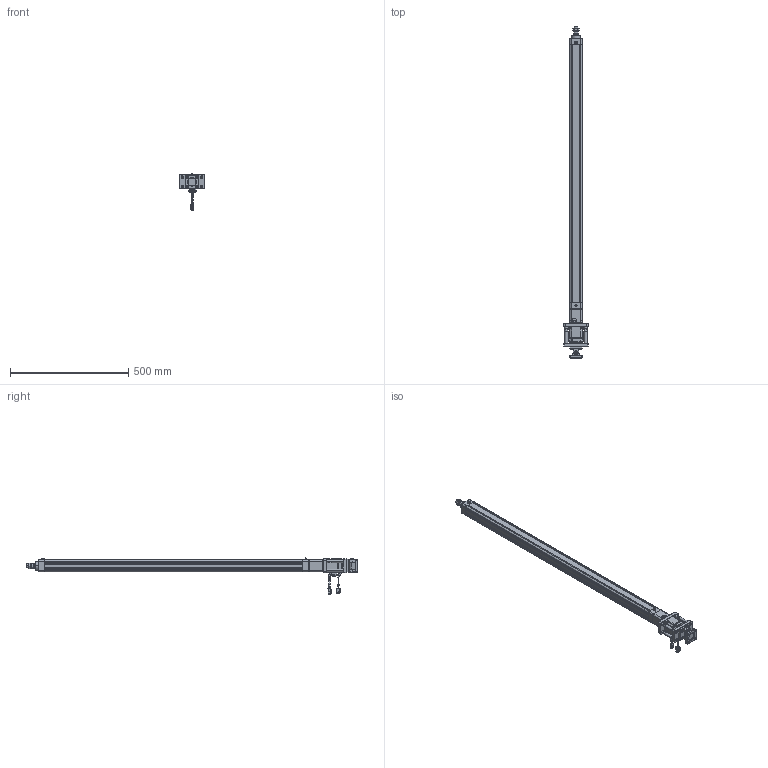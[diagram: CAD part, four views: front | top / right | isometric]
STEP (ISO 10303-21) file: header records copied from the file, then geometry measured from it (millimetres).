
FILE_DESCRIPTION((''),'2;1');
FILE_NAME('HE40-D-100_ASM','2020-05-27T',('ASUS20200'),(''),'CREO PARAMETRIC BY PTC INC, 2014190','CREO PARAMETRIC BY PTC INC, 2014190','');
FILE_SCHEMA(('CONFIG_CONTROL_DESIGN'));
Length unit declared in the file: millimetre
Products named in the file (32): HE40-D-P-001-X1; HE40-D-P-002-X1; HE40-D-P-003-X1; 6200ZZ; HE40-D-009-X1; HE40-D-010-X1; _MHMF022L1A2; _CABLE_MOTOR_BOTTOM_03; _CABLE_MOTOR_TOP_03; _MOTOR_CONNECTOR_2; _CABLE_BRAKE_BOTTOM_03; _CABLE_BRAKE_TOP_03; _MHMF_CONNECTOR_9_PIN_A6; MHMF022L1A2M2_1_ASM; MHMF022L1A2M2_ASM; SLM-01; YZ-M6X1; JDB202820; SKT-13; JX5X5X20; HE40-FB-LG; F-HE40-FB; M6X16; F-SE40CB; F-SE40CB-XD; F-SE40CB_ASM; F-SE40CA; HE40-D-P-005-X1; HE40-D-P-004-X1; HE40-D-P-008-X1; LGLM-M6-22; HE40-D-100_ASM
Assembly tree (48 placements, depth 4):
  HE40-D-100_ASM
    HE40-D-P-001-X1
    HE40-D-P-002-X1
    HE40-D-P-003-X1
    6200ZZ
    HE40-D-009-X1
    HE40-D-010-X1
    MHMF022L1A2M2_ASM
      MHMF022L1A2M2_1_ASM
        _MHMF022L1A2
        _CABLE_MOTOR_BOTTOM_03
        _CABLE_MOTOR_TOP_03
        _MOTOR_CONNECTOR_2
        _CABLE_BRAKE_BOTTOM_03
        _CABLE_BRAKE_TOP_03
        _MHMF_CONNECTOR_9_PIN_A6
    SLM-01
    YZ-M6X1
    JDB202820
    SKT-13
    JX5X5X20
    HE40-FB-LG  x4
    F-HE40-FB
    M6X16  x12
    F-SE40CB_ASM
      F-SE40CB
      F-SE40CB-XD
    F-SE40CA
    HE40-D-P-005-X1
    HE40-D-P-004-X1
    HE40-D-P-008-X1
    LGLM-M6-22  x4
Bounding box: 105 x 1405 x 152.7 mm (x, y, z)
Volume: 1819508.9 mm3; surface area: 737473.6 mm2
Topology: 45 solids, 82 shells, 2789 faces, 6613 edges, 4095 vertices
Faces by surface type: plane 1063, cylinder 878, cone 670, torus 138, sphere 36, bspline 4
Entity records: 71189 total; most frequent: CARTESIAN_POINT 13131, DIRECTION 12942, ORIENTED_EDGE 11258, EDGE_CURVE 5685, AXIS2_PLACEMENT_3D 4940, VERTEX_POINT 3554, VECTOR 3062, LINE 3062
